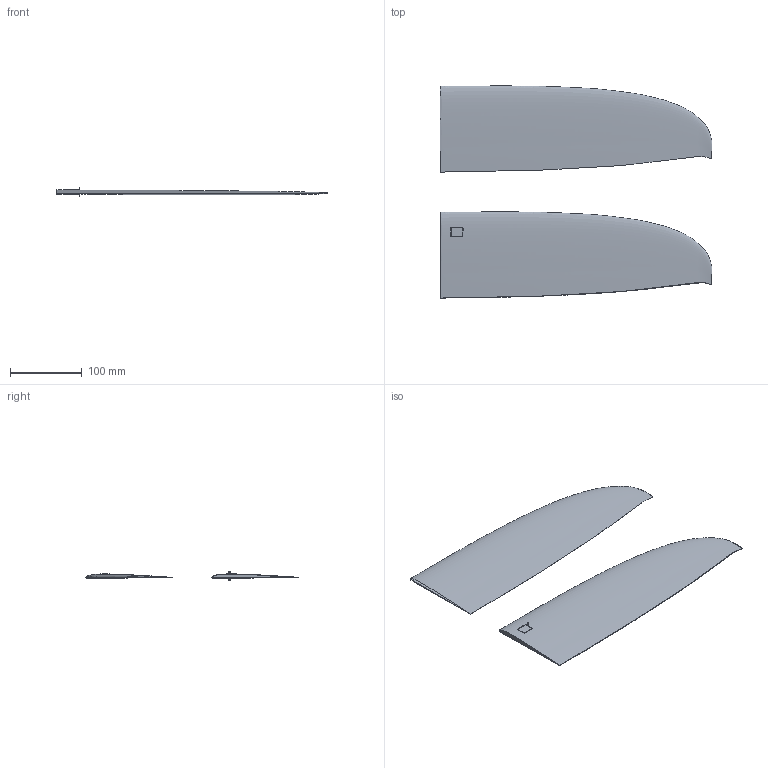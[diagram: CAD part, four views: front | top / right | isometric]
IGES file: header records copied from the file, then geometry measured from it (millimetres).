
Global section: file name: C:\Users\Robert\Dropbox\My PC (LAPTOP-VO95AKPS)\Desktop\AIRES ULTRA PRO\AIRES ULTRA PRO - WING NHX021E IGES.igs; native system: Rhinoceros ( Mar  9 2011 ); preprocessor: Trout Lake IGES 012 Mar  9 2011; date: 220603.204241; units: millimetre
Bounding box: 380 x 296.36 x 12.87 mm (x, y, z)
Surface area: 160039.6 mm2 (no closed solid volume)
Topology: 0 solids, 0 shells, 72 faces, 1950 edges, 2084 vertices
Faces by surface type: bspline 72
